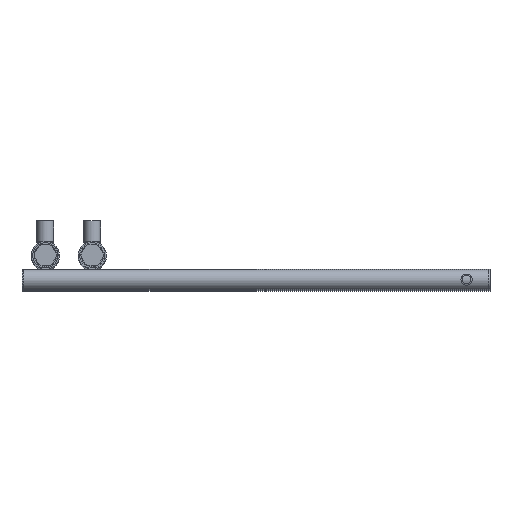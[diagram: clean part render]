
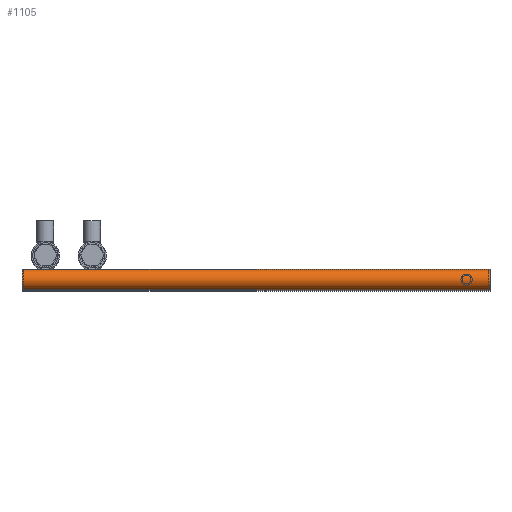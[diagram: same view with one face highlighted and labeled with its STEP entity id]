
A CAD part, top view. The second image highlights one B-rep face of the part: STEP entity #1105.
In plain terms, the highlighted cylindrical face has radius 11 mm (diameter 22 mm), a full revolution.
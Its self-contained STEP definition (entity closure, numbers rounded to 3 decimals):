
#280=CIRCLE('',#1224,11.);
#281=CIRCLE('',#1226,11.);
#366=FACE_BOUND('',#522,.T.);
#407=FACE_OUTER_BOUND('',#521,.T.);
#521=EDGE_LOOP('',(#949));
#522=EDGE_LOOP('',(#950));
#677=VERTEX_POINT('',#2994);
#678=VERTEX_POINT('',#2997);
#776=EDGE_CURVE('',#677,#677,#280,.T.);
#777=EDGE_CURVE('',#678,#678,#281,.T.);
#949=ORIENTED_EDGE('',*,*,#777,.F.);
#950=ORIENTED_EDGE('',*,*,#776,.T.);
#1070=CYLINDRICAL_SURFACE('',#1227,11.);
#1105=ADVANCED_FACE('',(#407,#366),#1070,.T.);
#1224=AXIS2_PLACEMENT_3D('',#2995,#1395,#1396);
#1226=AXIS2_PLACEMENT_3D('',#2998,#1399,#1400);
#1227=AXIS2_PLACEMENT_3D('',#2999,#1401,#1402);
#1395=DIRECTION('center_axis',(0.,0.,-1.));
#1396=DIRECTION('ref_axis',(-1.,0.,0.));
#1399=DIRECTION('center_axis',(0.,0.,-1.));
#1400=DIRECTION('ref_axis',(-1.,0.,0.));
#1401=DIRECTION('center_axis',(0.,0.,-1.));
#1402=DIRECTION('ref_axis',(-1.,0.,0.));
#2994=CARTESIAN_POINT('',(11.,-11.,0.));
#2995=CARTESIAN_POINT('Origin',(0.,-11.,0.));
#2997=CARTESIAN_POINT('',(11.,-11.,-500.));
#2998=CARTESIAN_POINT('Origin',(0.,-11.,-500.));
#2999=CARTESIAN_POINT('Origin',(0.,-11.,0.));
